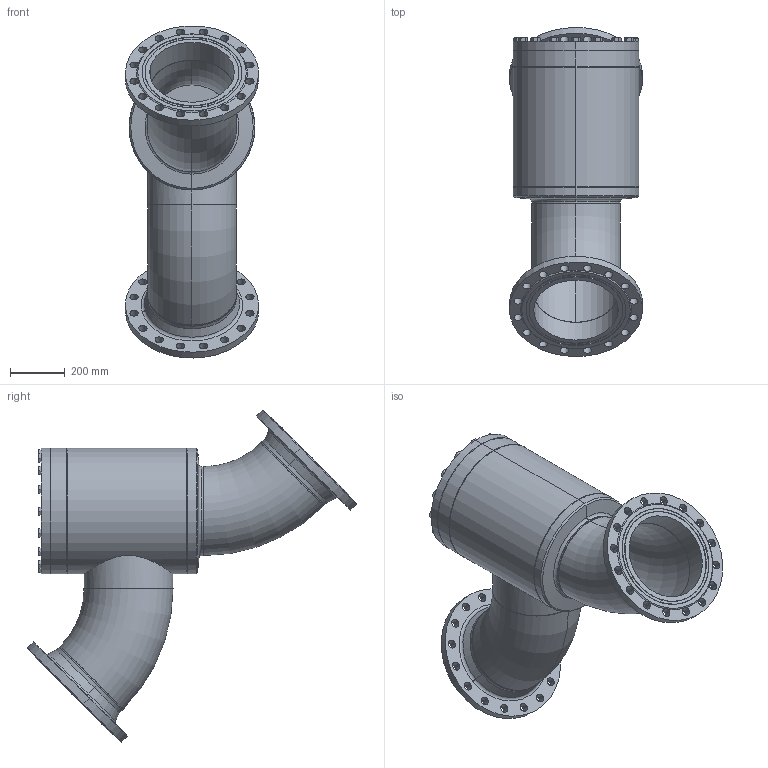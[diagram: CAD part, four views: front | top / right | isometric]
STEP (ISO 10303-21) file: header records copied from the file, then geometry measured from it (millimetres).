
FILE_DESCRIPTION (( 'STEP AP214' ), '1' );
FILE_NAME ('SS52320C25-DN300_DIN-FL-N_PS25.STEP', '2006-05-02T05:46:01', ( 'Herr Grams' ), ( 'AWP GmbH' ), 'SwSTEP 2.0', 'SolidWorks 2002296', '' );
FILE_SCHEMA (( 'AUTOMOTIVE_DESIGN' ));
Length unit declared in the file: millimetre
Products named in the file (18): SS52320C25-DN300_DIN-FL-N_PS25; Gehäuse-kpl26320-DN300_DIN_PS25_Standard; Gehäuse-kpl26300-DN300_R1_Standard; Kopfstück26300-DN300_Standard; Gehäuse26300-DN300_Standard; Rohrstutzen-A26300-DN300_R1_Standard; Boden26300-DN300_Standard; bead-DN300-3_Standard; bead-DN300-4_Standard; bead-DN300-2_Standard; bead-DN300-1_Standard; Rohrbogen 45°_Rohrbogen-DN300-45°; bead-DN300-7_Standard; bead-DN300-6_Standard; Flansch-DIN2634-Nut_PS25_DIN-Flansch-DN300_PS25-Nut; SS52300B25_Deck+Schr-DN300_Standard; Deckel52300B25-DN300_Standard; Sechskantschraube-DIN933_M20x 60
Assembly tree (36 placements, depth 4):
  SS52320C25-DN300_DIN-FL-N_PS25
    Gehäuse-kpl26320-DN300_DIN_PS25_Standard
      Flansch-DIN2634-Nut_PS25_DIN-Flansch-DN300_PS25-Nut  x2
      bead-DN300-6_Standard
      Gehäuse-kpl26300-DN300_R1_Standard
        bead-DN300-3_Standard
        Rohrstutzen-A26300-DN300_R1_Standard
        Boden26300-DN300_Standard
        Rohrbogen 45°_Rohrbogen-DN300-45°  x2
        bead-DN300-4_Standard  x2
        Kopfstück26300-DN300_Standard
        Gehäuse26300-DN300_Standard
        bead-DN300-1_Standard  x2
        bead-DN300-2_Standard
      bead-DN300-7_Standard
    SS52300B25_Deck+Schr-DN300_Standard
      Sechskantschraube-DIN933_M20x 60  x16
      Deckel52300B25-DN300_Standard
Bounding box: 484.88 x 1198.73 x 1208.73 mm (x, y, z)
Volume: 38298899.7 mm3; surface area: 5312279.5 mm2
Topology: 33 solids, 33 shells, 655 faces, 1540 edges, 942 vertices
Faces by surface type: cone 246, plane 186, cylinder 177, bspline 32, torus 14
Entity records: 12340 total; most frequent: CARTESIAN_POINT 6237, DIRECTION 1118, ORIENTED_EDGE 1068, EDGE_CURVE 534, AXIS2_PLACEMENT_3D 494, VERTEX_POINT 344, EDGE_LOOP 284, CIRCLE 270
